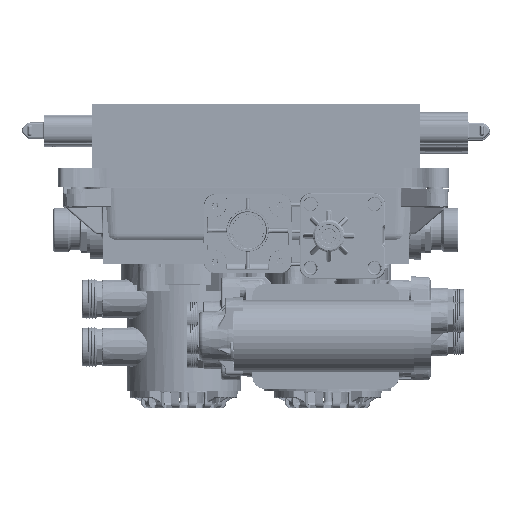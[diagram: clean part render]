
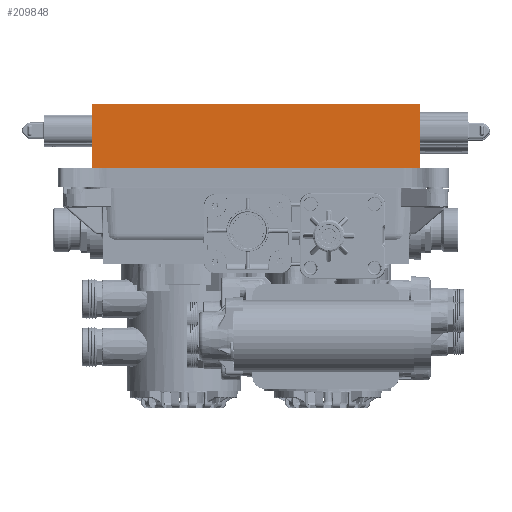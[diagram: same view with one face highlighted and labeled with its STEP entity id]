
A CAD part, top view. The second image highlights one B-rep face of the part: STEP entity #209848.
In plain terms, the highlighted planar face has unit normal (0, 0, 1).
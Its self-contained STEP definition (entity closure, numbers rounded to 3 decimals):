
#199107=DIRECTION('',(0.,-1.,0.));
#199108=VECTOR('',#199107,40.);
#199109=CARTESIAN_POINT('',(-102.62,96.1,116.225));
#199110=LINE('',#199109,#199108);
#202012=DIRECTION('',(-1.,0.,0.));
#202013=VECTOR('',#202012,205.12);
#202014=CARTESIAN_POINT('',(102.5,56.1,116.225));
#202015=LINE('',#202014,#202013);
#202016=DIRECTION('',(0.,-1.,0.));
#202017=VECTOR('',#202016,40.);
#202018=CARTESIAN_POINT('',(102.5,96.1,116.225));
#202019=LINE('',#202018,#202017);
#202024=DIRECTION('',(-1.,0.,0.));
#202025=VECTOR('',#202024,205.12);
#202026=CARTESIAN_POINT('',(102.5,96.1,116.225));
#202027=LINE('',#202026,#202025);
#205205=CARTESIAN_POINT('',(-102.62,56.1,116.225));
#205207=VERTEX_POINT('',#205205);
#205211=CARTESIAN_POINT('',(-102.62,96.1,116.225));
#205212=VERTEX_POINT('',#205211);
#205529=CARTESIAN_POINT('',(102.5,56.1,116.225));
#205531=VERTEX_POINT('',#205529);
#205863=CARTESIAN_POINT('',(102.5,96.1,116.225));
#205864=VERTEX_POINT('',#205863);
#209836=CARTESIAN_POINT('',(-102.62,56.1,116.225));
#209837=DIRECTION('',(0.,0.,1.));
#209838=DIRECTION('',(1.,0.,0.));
#209839=AXIS2_PLACEMENT_3D('',#209836,#209837,#209838);
#209840=PLANE('',#209839);
#209841=ORIENTED_EDGE('',*,*,#207045,.T.);
#209842=ORIENTED_EDGE('',*,*,#206626,.F.);
#209844=ORIENTED_EDGE('',*,*,#209843,.F.);
#209845=ORIENTED_EDGE('',*,*,#209540,.T.);
#209846=EDGE_LOOP('',(#209841,#209842,#209844,#209845));
#209847=FACE_OUTER_BOUND('',#209846,.F.);
#206626=EDGE_CURVE('',#205212,#205207,#199110,.T.);
#207045=EDGE_CURVE('',#205531,#205207,#202015,.T.);
#209540=EDGE_CURVE('',#205864,#205531,#202019,.T.);
#209843=EDGE_CURVE('',#205864,#205212,#202027,.T.);
#209848=ADVANCED_FACE('',(#209847),#209840,.T.);
